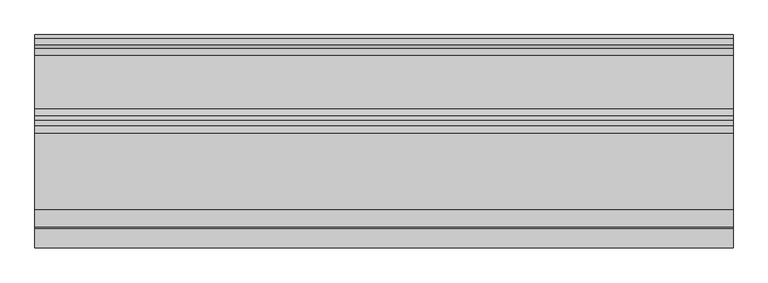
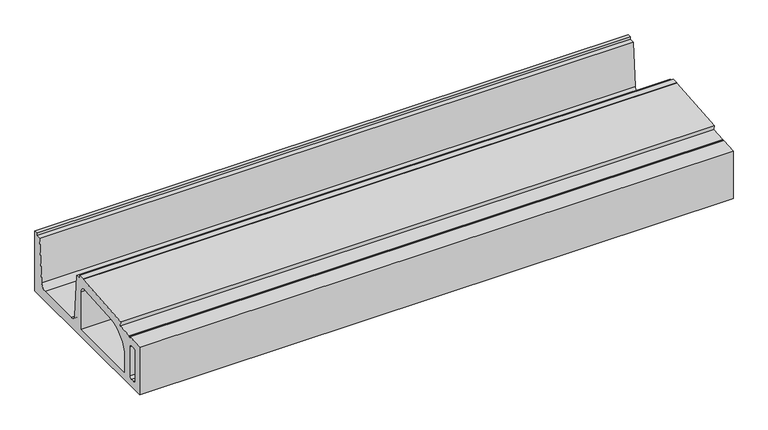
"""IFC4 building model written with IfcOpenShell, lengths in millimetres: proxy geometry, Muestra 2.01m RS911 : Muestra 2.01m RS911."""

from ifc_helpers import new_model, si_unit, point, frame, frame_2d, origin, place, context, project, spatial, polyline, circle_curve, trimmed, segment, composite_curve, outline, extrude, source, transform, mapped, element, save


def generic_models_b56241a0(model_context):
    return source(origin(), model_context, "Body", "SweptSolid", [
        extrude(outline(composite_curve([segment(polyline([(20740.4957042, -30.8899529), (20740.4957042, -33.4829761), (20745.4957042, -33.4829761), (20745.4957042, -30.4829761), (20797.7767654, -26.2275409), (20796.4957042, -10.4887901), (21016.4957042, 7.4181867), (21016.4957042, 9.0460936), (21036.4957042, 9.0460936), (21036.4957042, -0.9539064), (21054.4957042, -0.9539064), (21066.2079504, -152.0913365)]), True, "CONTINUOUS"), segment(trimmed(circle_curve(frame_2d((21086.1481663, -150.5460892)), 20.0), [point((21066.2079504, -152.0913365))], [point((21086.1481663, -170.5460892))], True, "CARTESIAN"), True, "CONTINUOUS"), segment(polyline([(21086.1481663, -170.5460892), (21239.8432421, -170.5460892)]), True, "CONTINUOUS"), segment(trimmed(circle_curve(frame_2d((21239.8432421, -150.5460892)), 20.0), [point((21239.8432421, -170.5460892))], [point((21259.783458, -152.0913365))], True, "CARTESIAN"), True, "CONTINUOUS"), segment(polyline([(21259.783458, -152.0913365), (21271.4957042, -0.9539064), (21289.4957042, -0.9539064), (21289.4957042, 9.0460936), (21299.4957042, 9.0460936), (21299.4957042, -205.5460892), (20685.4957042, -205.5460892), (20685.4957042, -35.3666971), (20740.4957042, -30.8899529)]), True, "CONTINUOUS")], self_intersect=False), holes=[composite_curve([segment(polyline([(20774.96579, -178.5460892), (21028.96579, -178.5460892), (21028.96579, -45.4227964)]), True, "CONTINUOUS"), segment(trimmed(circle_curve(frame_2d((21008.96579, -45.4227964)), 20.0), [point((21028.96579, -45.4227964))], [point((21007.343249, -25.488721))], True, "CARTESIAN"), True, "CONTINUOUS"), segment(polyline([(21007.343249, -25.488721), (20853.0699907, -38.0458467)]), True, "CONTINUOUS"), segment(trimmed(circle_curve(frame_2d((20859.96579, -122.765667)), 85.0), [point((20853.0699907, -38.0458467))], [point((20774.96579, -122.765667))], True, "CARTESIAN"), True, "CONTINUOUS"), segment(polyline([(20774.96579, -122.765667), (20774.96579, -178.5460892)]), True, "CONTINUOUS")], self_intersect=False), composite_curve([segment(polyline([(20712.4957042, -67.6336095), (20712.4957042, -170.5460892)]), True, "CONTINUOUS"), segment(trimmed(circle_curve(frame_2d((20720.4957042, -170.5460892)), 8.0), [point((20712.4957042, -170.5460892))], [point((20720.4957042, -178.5460892))], True, "CARTESIAN"), True, "CONTINUOUS"), segment(polyline([(20720.4957042, -178.5460892), (20732.4957042, -178.5460892)]), True, "CONTINUOUS"), segment(trimmed(circle_curve(frame_2d((20732.4957042, -170.5460892)), 8.0), [point((20732.4957042, -178.5460892))], [point((20740.4957042, -170.5460892))], True, "CARTESIAN"), True, "CONTINUOUS"), segment(polyline([(20740.4957042, -170.5460892), (20740.4957042, -66.6568653)]), True, "CONTINUOUS"), segment(trimmed(circle_curve(frame_2d((20732.4957042, -66.6568653)), 8.0), [point((20740.4957042, -66.6568653))], [point((20731.8466878, -58.6832352))], True, "CARTESIAN"), True, "CONTINUOUS"), segment(polyline([(20731.8466878, -58.6832352), (20719.8466878, -59.6599794)]), True, "CONTINUOUS"), segment(trimmed(circle_curve(frame_2d((20720.4957042, -67.6336095)), 8.0), [point((20719.8466878, -59.6599794))], [point((20712.4957042, -67.6336095))], True, "CARTESIAN"), True, "CONTINUOUS")], self_intersect=False)]), frame((99575.5909368, 0.0, 0.0), z_axis=(1.0, 0.0, 0.0), x_axis=(0.0, 1.0, 0.0)), (0.0, 0.0, 1.0), 2010.0),
    ])


if __name__ == "__main__":
    model = new_model("IFC4")
    model_context = context("Model", 3, world=origin())
    ifc_project = project(units=[si_unit("LENGTHUNIT", "METRE", prefix="MILLI")], contexts=[model_context])
    site = spatial("IfcSite", under=ifc_project)
    building = spatial("IfcBuilding", under=site)
    placement = place(None, origin())
    generic_models_shape = generic_models_b56241a0(model_context)
    element("IfcBuildingElementProxy", 1, Name="Muestra 2.01m RS911 : Muestra 2.01m RS911", ObjectType="Muestra 2.01m RS911 : Muestra 2.01m RS911", at=placement, inside=building, context=model_context, shape_type="MappedRepresentation", body=[
        mapped(generic_models_shape, transform((0.0, 0.0, 0.0), x_axis=(1.0, 0.0, 0.0), y_axis=(0.0, 1.0, 0.0), z_axis=(0.0, 0.0, 1.0))),
    ])
    save(model, "model.ifc")
